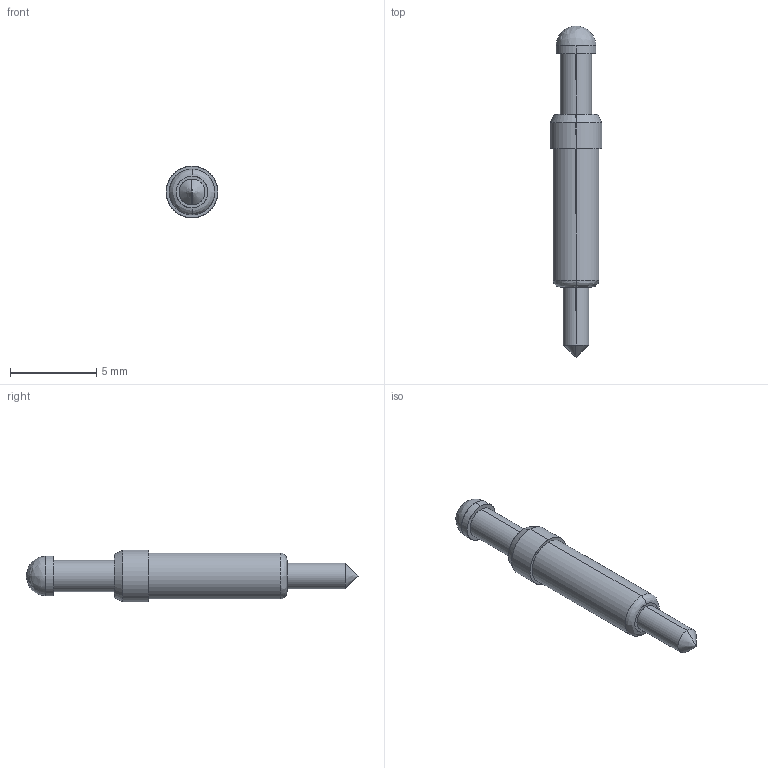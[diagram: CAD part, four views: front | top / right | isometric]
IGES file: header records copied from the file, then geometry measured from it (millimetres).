
Start section: SolidWorks IGES file using analytic representation for surfaces
Global section: file name: F:\OneDrive\Desktop\Coda\28.6\Front Fitment Completed\PC8T Series RTP\PC8DST.IGS; native system: SolidWorks 2021; preprocessor: SolidWorks 2021; author: Georg; date: 210713.120400; units: millimetre
Bounding box: 3 x 19.2 x 3 mm (x, y, z)
Surface area: 143.1 mm2 (no closed solid volume)
Topology: 0 solids, 0 shells, 21 faces, 296 edges, 292 vertices
Faces by surface type: revolution 14, bspline 7
